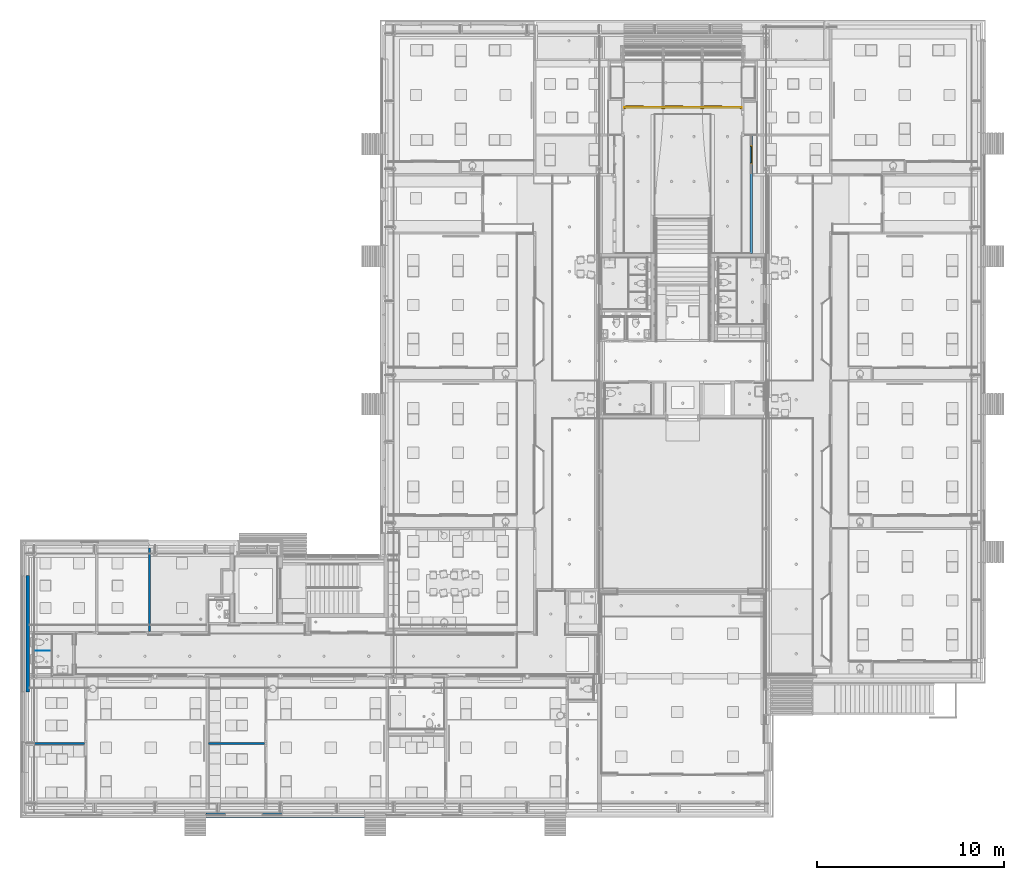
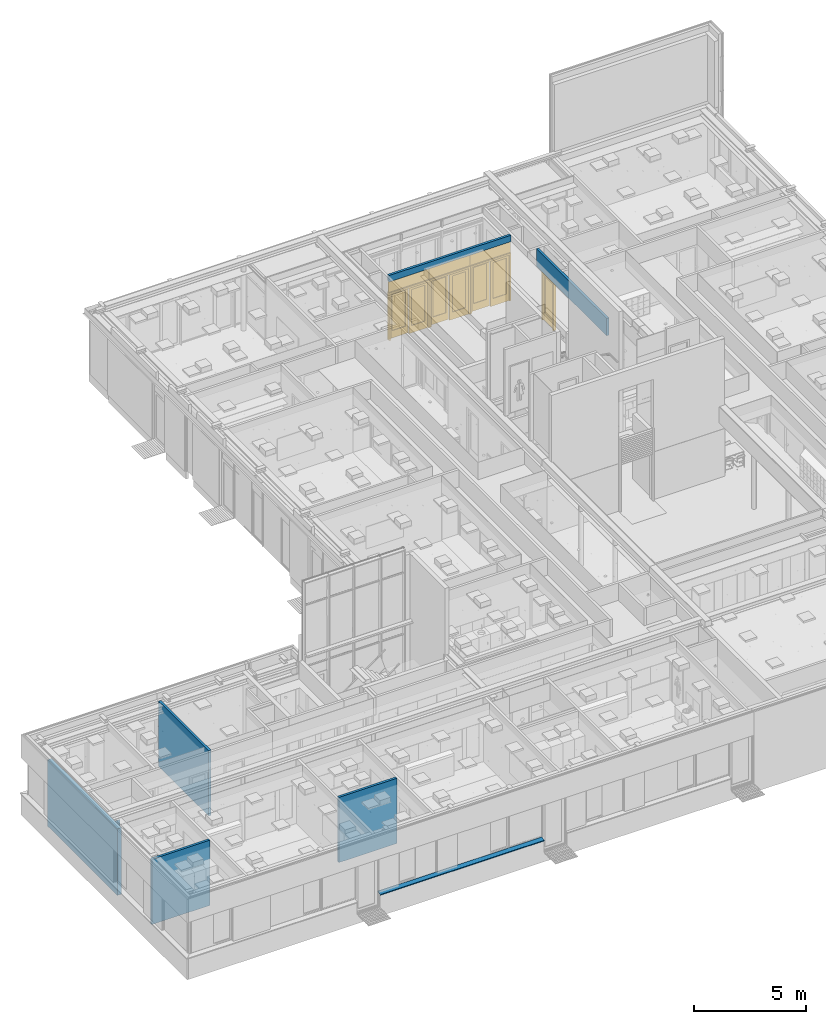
# One storey, part 9 of 347: 8 walls, 4 doors, 3 windows, 10 openings.
"""IFC2X3 building model written with IfcOpenShell, lengths in millimetres."""

from ifc_helpers import new_model, entity, si_unit, converted_unit, derived_unit, money_unit, direction, frame, origin_with_axes, place, context, subcontext, project, spatial, open_shell, faceted_brep, surface_model, source, transform, mapped, material, type_object, type_shapes, element, fill, save


model = new_model("IFC2X3")

# Units and contexts
model_context = context("Model", 3, precision=0.01, world=origin_with_axes(), true_north=direction((0.0, 1.0)))
plan_context = context("Plan", 3, precision=0.01, world=origin_with_axes(), true_north=direction((0.0, 1.0)))
body_context = subcontext(model_context, "Body", "Model", "MODEL_VIEW")
ifc_project = project(units=[si_unit("LENGTHUNIT", "METRE", prefix="MILLI"), si_unit("AREAUNIT", "SQUARE_METRE"), si_unit("VOLUMEUNIT", "CUBIC_METRE"), converted_unit("PLANEANGLEUNIT", "DEGREE", entity("IfcPlaneAngleMeasure", 0.0174532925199), si_unit("PLANEANGLEUNIT", "RADIAN"), dimensions=[0, 0, 0, 0, 0, 0, 0]), money_unit("EUR"), converted_unit("TIMEUNIT", "Year", entity("IfcTimeMeasure", 31556926.0), si_unit("TIMEUNIT", "SECOND"), dimensions=[0, 0, 1, 0, 0, 0, 0]), si_unit("MASSUNIT", "GRAM", prefix="KILO"), si_unit("THERMODYNAMICTEMPERATUREUNIT", "DEGREE_CELSIUS"), si_unit("LUMINOUSINTENSITYUNIT", "LUMEN"), si_unit("ENERGYUNIT", "JOULE", prefix="MEGA"), derived_unit("THERMALCONDUCTANCEUNIT", [(si_unit("POWERUNIT", "WATT"), 1), (si_unit("LENGTHUNIT", "METRE"), -1), (si_unit("THERMODYNAMICTEMPERATUREUNIT", "KELVIN"), -1)]), derived_unit("SPECIFICHEATCAPACITYUNIT", [(si_unit("ENERGYUNIT", "JOULE"), 1), (si_unit("MASSUNIT", "GRAM", prefix="KILO"), -1), (si_unit("THERMODYNAMICTEMPERATUREUNIT", "KELVIN"), -1)]), derived_unit("MASSDENSITYUNIT", [(si_unit("MASSUNIT", "GRAM", prefix="KILO"), 1), (si_unit("VOLUMEUNIT", "CUBIC_METRE"), -1)])], contexts=[model_context, plan_context])

# Site, building, storey
site_placement = place(None, origin_with_axes())
site = spatial("IfcSite", under=ifc_project, at=site_placement, Name="Site", CompositionType="ELEMENT")
building_placement = place(site_placement, origin_with_axes())
building = spatial("IfcBuilding", under=site, at=building_placement, Name="Naam gebouw", CompositionType="ELEMENT")
storey_placement = place(building_placement, origin_with_axes())
storey = spatial("IfcBuildingStorey", under=building, at=storey_placement, Name="begane grond", CompositionType="ELEMENT", Elevation=0.0)

# Wall
ifc_material_1 = material(Name="Beton gewapend prefab wand")
wall_type_1 = type_object("IfcWallType", Name="Betonwand 200 210", PredefinedType="NOTDEFINED")
wall_1_placement = place(storey_placement, frame((5060.0, 17524.9999966, -510.0), z_axis=(0.0, 0.0, 1.0), x_axis=(0.0, -1.0, 0.0)))
element("IfcWall", 1, at=wall_1_placement, inside=storey, type_object=wall_type_1, material=ifc_material_1, Name="21_GF 125 ECO DGS/2.75.3A", context=body_context, shape_type="Brep", body=[
    faceted_brep([(6235.00271032, 0.0, 4070.0), (6235.00271032, 0.0, 440.0), (0.0, 0.0, 440.0), (0.0, 0.0, 4070.0), (6235.00271032, -210.0, 4070.0), (6235.00271032, -210.0, 440.0), (0.0, -210.0, 440.0), (0.0, -210.0, 4070.0)], [[[0, 1, 2, 3]], [[4, 5, 1, 0]], [[5, 6, 2, 1]], [[3, 2, 6, 7]], [[3, 7, 4, 0]], [[7, 6, 5, 4]]]),
])

# Wall, openings, door
ifc_material_2 = material(Name="ALG - LICHTE SCHEIDINGSWAND")
wall_type_2 = type_object("IfcWallType", Name="ALG LSW 125 125", PredefinedType="NOTDEFINED")
wall_2_placement = place(storey_placement, frame((43675.0, 34799.9999802, 0.0), z_axis=(0.0, 0.0, 1.0), x_axis=(0.0, 1.0, 0.0)))
wall_2 = element("IfcWall", 2, at=wall_2_placement, inside=storey, type_object=wall_type_2, material=ifc_material_2, Name="22_GF 125 ECO DGS/2.75.2A", context=body_context, shape_type="Brep", body=[
    faceted_brep([(0.0, -125.0, 3560.0), (5.55752777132e-05, -125.0, 2612.0), (6287.5000198, -125.0, 2612.0), (6287.5000198, -125.0, 3560.0), (0.0, 0.0, 3560.0), (5.55752777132e-05, 0.0, 2612.0), (6287.5000198, 0.0, 2612.0), (6287.5000198, 0.0, 3560.0)], [[[0, 1, 2, 3]], [[4, 5, 1, 0]], [[5, 6, 2, 1]], [[3, 2, 6, 7]], [[0, 3, 7, 4]], [[7, 6, 5, 4]]]),
])
opening_1_placement = place(wall_2_placement, frame((4525.00002877, 0.0, 0.0), z_axis=(0.0, 0.0, 1.0), x_axis=(1.0, 0.0, 0.0)))
element("IfcOpeningElement", 3, at=opening_1_placement, cuts=wall_2, Name="32_10.07", context=body_context, shape_type="Brep", body=[
    faceted_brep([(230.500008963, -250.0, 2600.0), (230.500008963, -250.0, 0.0), (230.500008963, -52.5, 0.0), (230.500008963, -52.5, 2600.0), (-230.500008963, -250.0, 2600.0), (-230.500008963, -250.0, 0.0), (-230.500008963, -52.5, 0.0), (-230.500008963, -52.5, 2600.0)], [[[0, 1, 2, 3]], [[0, 4, 5, 1]], [[1, 5, 6, 2]], [[3, 2, 6, 7]], [[4, 0, 3, 7]], [[5, 4, 7, 6]]]),
    faceted_brep([(230.500008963, 125.0, 0.0), (230.500008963, 125.0, 2600.0), (230.500008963, -52.5, 2600.0), (230.500008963, -52.5, 0.0), (-230.500008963, 125.0, 0.0), (-230.500008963, 125.0, 2600.0), (-230.500008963, -52.5, 2600.0), (-230.500008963, -52.5, 0.0)], [[[0, 1, 2, 3]], [[0, 4, 5, 1]], [[1, 5, 6, 2]], [[3, 2, 6, 7]], [[4, 0, 3, 7]], [[5, 4, 7, 6]]]),
])
opening_2_placement = place(wall_2_placement, frame((6079.75002877, 0.0, 0.0), z_axis=(0.0, 0.0, 1.0), x_axis=(1.0, 0.0, 0.0)))
element("IfcOpeningElement", 4, at=opening_2_placement, cuts=wall_2, Name="32_10.08", context=body_context, shape_type="Brep", body=[
    faceted_brep([(260.249991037, -250.0, 2600.0), (260.249991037, -250.0, 0.0), (260.249991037, -52.5, 0.0), (260.249991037, -52.5, 2600.0), (-260.249991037, -250.0, 2600.0), (-260.249991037, -250.0, 0.0), (-260.249991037, -52.5, 0.0), (-260.249991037, -52.5, 2600.0)], [[[0, 1, 2, 3]], [[0, 4, 5, 1]], [[1, 5, 6, 2]], [[3, 2, 6, 7]], [[4, 0, 3, 7]], [[5, 4, 7, 6]]]),
    faceted_brep([(260.249991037, 125.0, 0.0), (260.249991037, 125.0, 2600.0), (260.249991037, -52.5, 2600.0), (260.249991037, -52.5, 0.0), (-260.249991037, 125.0, 0.0), (-260.249991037, 125.0, 2600.0), (-260.249991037, -52.5, 2600.0), (-260.249991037, -52.5, 0.0)], [[[0, 1, 2, 3]], [[0, 4, 5, 1]], [[1, 5, 6, 2]], [[3, 2, 6, 7]], [[4, 0, 3, 7]], [[5, 4, 7, 6]]]),
])
opening_3_placement = place(wall_2_placement, frame((2077.7500198, 0.0, 0.0), z_axis=(0.0, 0.0, 1.0), x_axis=(1.0, 0.0, 0.0)))
element("IfcOpeningElement", 5, at=opening_3_placement, cuts=wall_2, Name="32_05.05", context=body_context, shape_type="Brep", body=[
    faceted_brep([(-2077.75, -257.0, 0.0), (-2077.75, -257.0, 2600.0), (-2077.75, 125.0, 2600.0), (-2077.75, 125.0, 0.0), (2077.75, -257.0, 0.0), (2077.75, -257.0, 2600.0), (2077.75, 125.0, 2600.0), (2077.75, 125.0, 0.0)], [[[0, 1, 2, 3]], [[0, 4, 5, 1]], [[1, 5, 6, 2]], [[3, 2, 6, 7]], [[4, 0, 3, 7]], [[5, 4, 7, 6]]]),
])
opening_4_placement = place(wall_2_placement, frame((5287.50003773, 0.0, 0.0), z_axis=(0.0, 0.0, 1.0), x_axis=(1.0, 0.0, 0.0)))
opening_4 = element("IfcOpeningElement", 6, at=opening_4_placement, cuts=wall_2, Name="32_01.01", context=body_context, shape_type="Brep", body=[
    faceted_brep([(532.0, 257.0, 0.0), (532.0, 257.0, 2600.0), (532.0, -125.0, 2600.0), (532.0, -125.0, 0.0), (-532.0, 257.0, 0.0), (-532.0, 257.0, 2600.0), (-532.0, -125.0, 2600.0), (-532.0, -125.0, 0.0)], [[[0, 1, 2, 3]], [[0, 4, 5, 1]], [[1, 5, 6, 2]], [[3, 2, 6, 7]], [[4, 0, 3, 7]], [[5, 4, 7, 6]]]),
])
door_style_1 = type_object("IfcDoorStyle", Name="D1 25", ConstructionType="NOTDEFINED", OperationType="SINGLE_SWING_LEFT", ParameterTakesPrecedence=False, Sizeable=False)
shared_shape_1 = source(origin_with_axes(), body_context, "Body", "SurfaceModel", [
    faceted_brep([(442.0, -60.0, 0.0), (442.0, -139.0, 0.0), (442.0, -139.0, 2510.0), (442.0, -60.0, 2510.0), (467.0, -60.0, 0.0), (467.0, 0.0, 0.0), (532.0, 0.0, 0.0), (532.0, -139.0, 0.0), (532.0, -139.0, 2510.0), (467.0, -60.0, 2510.0), (532.0, 0.0, 2510.0), (467.0, 0.0, 2510.0)], [[[0, 1, 2, 3]], [[4, 5, 6, 7, 1, 0]], [[1, 7, 8, 2]], [[9, 3, 2, 8, 10, 11]], [[9, 4, 0, 3]], [[11, 5, 4, 9]], [[11, 10, 6, 5]], [[6, 10, 8, 7]]]),
    faceted_brep([(-467.0, -60.0, 2510.0), (-467.0, 0.0, 2510.0), (-532.0, 0.0, 2510.0), (-532.0, -139.0, 2510.0), (-442.0, -139.0, 2510.0), (-442.0, -60.0, 2510.0), (-467.0, -60.0, 0.0), (-467.0, 0.0, 0.0), (-532.0, 0.0, 0.0), (-532.0, -139.0, 0.0), (-442.0, -139.0, 0.0), (-442.0, -60.0, 0.0)], [[[0, 1, 2, 3, 4, 5]], [[0, 6, 7, 1]], [[7, 8, 2, 1]], [[2, 8, 9, 3]], [[3, 9, 10, 4]], [[5, 4, 10, 11]], [[5, 11, 6, 0]], [[6, 11, 10, 9, 8, 7]]]),
    faceted_brep([(467.0, 0.0, 2535.0), (-467.0, 0.0, 2535.0), (-467.0, 0.0, 2510.0), (-532.0, 0.0, 2510.0), (-532.0, 0.0, 2600.0), (532.0, 0.0, 2600.0), (532.0, 0.0, 2510.0), (467.0, 0.0, 2510.0), (467.0, -60.0, 2535.0), (-467.0, -60.0, 2535.0), (-467.0, -60.0, 2510.0), (-442.0, -60.0, 2510.0), (-442.0, -139.0, 2510.0), (-532.0, -139.0, 2510.0), (-532.0, -139.0, 2600.0), (532.0, -139.0, 2600.0), (532.0, -139.0, 2510.0), (467.0, -60.0, 2510.0), (442.0, -139.0, 2510.0), (442.0, -60.0, 2510.0)], [[[0, 1, 2, 3, 4, 5, 6, 7]], [[0, 8, 9, 1]], [[1, 9, 10, 2]], [[10, 11, 12, 13, 3, 2]], [[4, 3, 13, 14]], [[5, 4, 14, 15]], [[6, 5, 15, 16]], [[17, 7, 6, 16, 18, 19]], [[7, 17, 8, 0]], [[10, 9, 8, 17, 19, 11]], [[19, 18, 12, 11]], [[12, 18, 16, 15, 14, 13]]]),
    faceted_brep([(-467.0, -6.0, 400.0), (-327.0, -6.0, 400.0), (-327.0, -60.0, 400.0), (-467.0, -60.0, 400.0), (-467.0, -6.0, 2395.0), (-327.0, -6.0, 2395.0), (-327.0, -60.0, 2395.0), (-467.0, -60.0, 2395.0)], [[[0, 1, 2, 3]], [[0, 4, 5, 1]], [[1, 5, 6, 2]], [[3, 2, 6, 7]], [[4, 0, 3, 7]], [[5, 4, 7, 6]]]),
    faceted_brep([(467.0, -6.0, 400.0), (467.0, -6.0, 2395.0), (467.0, -60.0, 2395.0), (467.0, -60.0, 400.0), (327.0, -6.0, 400.0), (327.0, -6.0, 2395.0), (327.0, -60.0, 2395.0), (327.0, -60.0, 400.0)], [[[0, 1, 2, 3]], [[0, 4, 5, 1]], [[1, 5, 6, 2]], [[3, 2, 6, 7]], [[4, 0, 3, 7]], [[5, 4, 7, 6]]]),
    faceted_brep([(-467.0, -6.0, 0.0), (467.0, -6.0, 0.0), (467.0, -60.0, 0.0), (-467.0, -60.0, 0.0), (-467.0, -6.0, 400.0), (-327.0, -6.0, 400.0), (327.0, -6.0, 400.0), (467.0, -6.0, 400.0), (467.0, -60.0, 400.0), (327.0, -60.0, 400.0), (-327.0, -60.0, 400.0), (-467.0, -60.0, 400.0)], [[[0, 1, 2, 3]], [[0, 4, 5, 6, 7, 1]], [[1, 7, 8, 2]], [[3, 2, 8, 9, 10, 11]], [[4, 0, 3, 11]], [[5, 4, 11, 10]], [[6, 5, 10, 9]], [[7, 6, 9, 8]]]),
    faceted_brep([(-467.0, -6.0, 2535.0), (-467.0, -6.0, 2395.0), (-467.0, -60.0, 2395.0), (-467.0, -60.0, 2535.0), (467.0, -6.0, 2535.0), (467.0, -6.0, 2395.0), (327.0, -6.0, 2395.0), (-327.0, -6.0, 2395.0), (-327.0, -60.0, 2395.0), (327.0, -60.0, 2395.0), (467.0, -60.0, 2395.0), (467.0, -60.0, 2535.0)], [[[0, 1, 2, 3]], [[0, 4, 5, 6, 7, 1]], [[1, 7, 8, 2]], [[3, 2, 8, 9, 10, 11]], [[4, 0, 3, 11]], [[5, 4, 11, 10]], [[6, 5, 10, 9]], [[7, 6, 9, 8]]]),
    surface_model("IfcShellBasedSurfaceModel", [(-327.0, -27.0, 400.0), (-327.0, -27.0, 2395.0), (327.0, -27.0, 2395.0), (327.0, -27.0, 400.0)], [open_shell([[[0, 1, 2, 3]]])]),
    surface_model("IfcShellBasedSurfaceModel", [(-327.0, -39.0, 400.0), (327.0, -39.0, 400.0), (327.0, -39.0, 2395.0), (-327.0, -39.0, 2395.0)], [open_shell([[[0, 1, 2, 3]]])]),
])
type_shapes(door_style_1, [shared_shape_1])
door_1_placement = place(opening_4_placement, frame((532.0, 0.0, 0.0), z_axis=(0.0, 0.0, 1.0), x_axis=(-1.0, 0.0, 0.0)))
door_1 = element("IfcDoor", 7, at=door_1_placement, inside=storey, type_object=door_style_1, Name="32_01.01", ObjectType="DOOR", OverallHeight=2600.0, OverallWidth=1064.0, context=body_context, shape_type="MappedRepresentation", body=[
    mapped(shared_shape_1, transform((532.0, 132.0, 0.0))),
])
fill(opening_4, door_1)

# Walls
wall_3_placement = place(storey_placement, frame((5000.0, 8527.5, 0.0), z_axis=(0.0, 0.0, 1.0), x_axis=(1.0, 0.0, 0.0)))
element("IfcWall", 8, at=wall_3_placement, inside=storey, type_object=wall_type_2, material=ifc_material_2, Name="22_GF 125 ECO DGS/2.75.2A", context=body_context, shape_type="Brep", body=[
    faceted_brep([(-2.2106405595e-06, 62.5, 0.0), (-2.2106405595e-06, 62.5, 3560.0), (3000.0, 62.5, 3560.0), (3000.0, 62.5, 0.0), (-2.2106405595e-06, -62.5, 0.0), (-2.2106405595e-06, -62.5, 3560.0), (3000.0, -62.5, 3560.0), (3000.0, -62.5, 0.0)], [[[0, 1, 2, 3]], [[4, 5, 1, 0]], [[2, 1, 5, 6]], [[7, 3, 2, 6]], [[7, 4, 0, 3]], [[6, 5, 4, 7]]]),
])
wall_4_placement = place(storey_placement, frame((14525.0, 8527.5, 0.0), z_axis=(0.0, 0.0, 1.0), x_axis=(1.0, 0.0, 0.0)))
element("IfcWall", 9, at=wall_4_placement, inside=storey, type_object=wall_type_2, material=ifc_material_2, Name="22_GF 125 ECO DGS/2.75.2A", context=body_context, shape_type="Brep", body=[
    faceted_brep([(3125.0, -62.5, 3560.0), (3125.0, 62.5, 3560.0), (125.0, 62.5, 3560.0), (125.0, -62.5, 3560.0), (3125.0, -62.5, 0.0), (3125.0, 62.5, 0.0), (125.0, 62.5, 0.0), (125.0, -62.5, 0.0)], [[[0, 1, 2, 3]], [[1, 0, 4, 5]], [[1, 5, 6, 2]], [[7, 3, 2, 6]], [[4, 0, 3, 7]], [[5, 4, 7, 6]]]),
])
wall_5_placement = place(storey_placement, frame((11425.0, 19000.0, 0.0), z_axis=(0.0, 0.0, 1.0), x_axis=(0.0, -1.0, 0.0)))
element("IfcWall", 10, at=wall_5_placement, inside=storey, type_object=wall_type_2, material=ifc_material_2, Name="22_GF 125 ECO DGS/2.75.3A", context=body_context, shape_type="Brep", body=[
    faceted_brep([(4109.99990516, 125.0, 2612.0), (4109.99990516, 125.0, 2600.0), (4475.0, 125.0, 2600.0), (4475.0, 125.0, 0.0), (-3.32258665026e-06, 125.0, 0.0), (-3.32258665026e-06, 125.0, 3559.99997586), (4475.0, 125.0, 3560.0), (4475.0, 125.0, 2612.0), (4109.99990516, -2.09852757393e-06, 2600.0), (4109.99990516, -2.09852757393e-06, 2612.0), (4475.0, 0.0, 2600.0), (4475.0, 0.0, 0.0), (-2.21049489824e-06, -2.09852757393e-06, 0.0), (-2.21049489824e-06, -2.09852757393e-06, 3559.99997586), (4475.0, 0.0, 3560.0), (4475.0, 0.0, 2612.0)], [[[0, 1, 2, 3, 4, 5, 6, 7]], [[8, 1, 0, 9]], [[10, 2, 1, 8]], [[3, 2, 10, 11]], [[3, 11, 12, 4]], [[5, 4, 12, 13]], [[14, 6, 5, 13]], [[14, 15, 7, 6]], [[9, 0, 7, 15]], [[8, 9, 15, 14, 13, 12, 11, 10]]]),
])

# Wall, openings, windows, doors
wall_type_3 = type_object("IfcWallType", Name="ALG - LICHTE SCHEIDINGSWAND 125", PredefinedType="NOTDEFINED")
wall_6_placement = place(storey_placement, frame((36925.0, 42562.5, 0.0), z_axis=(0.0, 0.0, 1.0), x_axis=(1.0, 0.0, 0.0)))
wall_6 = element("IfcWall", 11, at=wall_6_placement, inside=storey, type_object=wall_type_3, material=ifc_material_2, Name="22_53 wandtegels keramisch", context=body_context, shape_type="Brep", body=[
    faceted_brep([(6300.0, 0.0, 3560.0), (6300.00000438, 0.0, 3212.0), (6300.00000438, 125.0, 3212.0), (6300.0, 125.0, 3560.0), (0.0, 0.0, 3560.0), (0.0, 0.0, 3212.0), (0.0, 125.0, 3212.0), (0.0, 125.0, 3560.0)], [[[0, 1, 2, 3]], [[4, 5, 1, 0]], [[5, 6, 2, 1]], [[3, 2, 6, 7]], [[4, 0, 3, 7]], [[7, 6, 5, 4]]]),
])
opening_5_placement = place(wall_6_placement, frame((1050.0, 0.0, 2600.0), z_axis=(0.0, 0.0, 1.0), x_axis=(1.0, 0.0, 0.0)))
opening_5 = element("IfcOpeningElement", 12, at=opening_5_placement, cuts=wall_6, Name="31_12.01", context=body_context, shape_type="Brep", body=[
    faceted_brep([(-1050.0, 250.0, 600.0), (-1050.0, 250.0, 0.0), (-1050.0, 52.5, 0.0), (-1050.0, 52.5, 600.0), (1050.0, 250.0, 600.0), (1050.0, 250.0, 0.0), (1050.0, 52.5, 0.0), (1050.0, 52.5, 600.0)], [[[0, 1, 2, 3]], [[0, 4, 5, 1]], [[1, 5, 6, 2]], [[3, 2, 6, 7]], [[4, 0, 3, 7]], [[5, 4, 7, 6]]]),
    faceted_brep([(-1050.0, -125.0, 0.0), (-1050.0, -125.0, 600.0), (-1050.0, 52.5, 600.0), (-1050.0, 52.5, 0.0), (1050.0, -125.0, 0.0), (1050.0, -125.0, 600.0), (1050.0, 52.5, 600.0), (1050.0, 52.5, 0.0)], [[[0, 1, 2, 3]], [[0, 4, 5, 1]], [[1, 5, 6, 2]], [[3, 2, 6, 7]], [[4, 0, 3, 7]], [[5, 4, 7, 6]]]),
])
opening_6_placement = place(wall_6_placement, frame((3150.0, 0.0, 2600.0), z_axis=(0.0, 0.0, 1.0), x_axis=(1.0, 0.0, 0.0)))
opening_6 = element("IfcOpeningElement", 13, at=opening_6_placement, cuts=wall_6, Name="31_12.01", context=body_context, shape_type="Brep", body=[
    faceted_brep([(-1050.0, 250.0, 600.0), (-1050.0, 250.0, 0.0), (-1050.0, 52.5, 0.0), (-1050.0, 52.5, 600.0), (1050.0, 250.0, 600.0), (1050.0, 250.0, 0.0), (1050.0, 52.5, 0.0), (1050.0, 52.5, 600.0)], [[[0, 1, 2, 3]], [[0, 4, 5, 1]], [[1, 5, 6, 2]], [[3, 2, 6, 7]], [[4, 0, 3, 7]], [[5, 4, 7, 6]]]),
    faceted_brep([(-1050.0, -125.0, 0.0), (-1050.0, -125.0, 600.0), (-1050.0, 52.5, 600.0), (-1050.0, 52.5, 0.0), (1050.0, -125.0, 0.0), (1050.0, -125.0, 600.0), (1050.0, 52.5, 600.0), (1050.0, 52.5, 0.0)], [[[0, 1, 2, 3]], [[0, 4, 5, 1]], [[1, 5, 6, 2]], [[3, 2, 6, 7]], [[4, 0, 3, 7]], [[5, 4, 7, 6]]]),
])
opening_7_placement = place(wall_6_placement, frame((5250.0, 0.0, 2600.0), z_axis=(0.0, 0.0, 1.0), x_axis=(1.0, 0.0, 0.0)))
opening_7 = element("IfcOpeningElement", 14, at=opening_7_placement, cuts=wall_6, Name="31_12.01", context=body_context, shape_type="Brep", body=[
    faceted_brep([(-1050.0, 250.0, 600.0), (-1050.0, 250.0, 0.0), (-1050.0, 52.5, 0.0), (-1050.0, 52.5, 600.0), (1050.0, 250.0, 600.0), (1050.0, 250.0, 0.0), (1050.0, 52.5, 0.0), (1050.0, 52.5, 600.0)], [[[0, 1, 2, 3]], [[0, 4, 5, 1]], [[1, 5, 6, 2]], [[3, 2, 6, 7]], [[4, 0, 3, 7]], [[5, 4, 7, 6]]]),
    faceted_brep([(-1050.0, -125.0, 0.0), (-1050.0, -125.0, 600.0), (-1050.0, 52.5, 600.0), (-1050.0, 52.5, 0.0), (1050.0, -125.0, 0.0), (1050.0, -125.0, 600.0), (1050.0, 52.5, 600.0), (1050.0, 52.5, 0.0)], [[[0, 1, 2, 3]], [[0, 4, 5, 1]], [[1, 5, 6, 2]], [[3, 2, 6, 7]], [[4, 0, 3, 7]], [[5, 4, 7, 6]]]),
])
opening_8_placement = place(wall_6_placement, frame((3150.0, 0.0, 0.0), z_axis=(0.0, 0.0, 1.0), x_axis=(1.0, 0.0, 0.0)))
opening_8 = element("IfcOpeningElement", 15, at=opening_8_placement, cuts=wall_6, Name="32_05.01", context=body_context, shape_type="Brep", body=[
    faceted_brep([(1050.0, -125.0, 2600.0), (1050.0, -125.0, 0.0), (1050.0, 257.0, 0.0), (1050.0, 257.0, 2600.0), (-1050.0, -125.0, 2600.0), (-1050.0, -125.0, 0.0), (-1050.0, 257.0, 0.0), (-1050.0, 257.0, 2600.0)], [[[0, 1, 2, 3]], [[0, 4, 5, 1]], [[1, 5, 6, 2]], [[3, 2, 6, 7]], [[4, 0, 3, 7]], [[5, 4, 7, 6]]]),
])
opening_9_placement = place(wall_6_placement, frame((1050.0, 0.0, 0.0), z_axis=(0.0, 0.0, 1.0), x_axis=(1.0, 0.0, 0.0)))
opening_9 = element("IfcOpeningElement", 16, at=opening_9_placement, cuts=wall_6, Name="32_05.01", context=body_context, shape_type="Brep", body=[
    faceted_brep([(1050.0, -125.0, 2600.0), (1050.0, -125.0, 0.0), (1050.0, 257.0, 0.0), (1050.0, 257.0, 2600.0), (-1050.0, -125.0, 2600.0), (-1050.0, -125.0, 0.0), (-1050.0, 257.0, 0.0), (-1050.0, 257.0, 2600.0)], [[[0, 1, 2, 3]], [[0, 4, 5, 1]], [[1, 5, 6, 2]], [[3, 2, 6, 7]], [[4, 0, 3, 7]], [[5, 4, 7, 6]]]),
])
opening_10_placement = place(wall_6_placement, frame((5250.0, 0.0, 0.0), z_axis=(0.0, 0.0, 1.0), x_axis=(1.0, 0.0, 0.0)))
opening_10 = element("IfcOpeningElement", 17, at=opening_10_placement, cuts=wall_6, Name="32_05.01", context=body_context, shape_type="Brep", body=[
    faceted_brep([(1050.0, -125.0, 2600.0), (1050.0, -125.0, 0.0), (1050.0, 257.0, 0.0), (1050.0, 257.0, 2600.0), (-1050.0, -125.0, 2600.0), (-1050.0, -125.0, 0.0), (-1050.0, 257.0, 0.0), (-1050.0, 257.0, 2600.0)], [[[0, 1, 2, 3]], [[0, 4, 5, 1]], [[1, 5, 6, 2]], [[3, 2, 6, 7]], [[4, 0, 3, 7]], [[5, 4, 7, 6]]]),
])
window_style = type_object("IfcWindowStyle", Name="R1 25", ConstructionType="NOTDEFINED", OperationType="SINGLE_PANEL", ParameterTakesPrecedence=False, Sizeable=False)
shared_shape_2 = source(origin_with_axes(), body_context, "Body", "SurfaceModel", [
    faceted_brep([(-1030.0, -20.0, 580.0), (-1030.0, 0.0, 580.0), (-1050.0, 0.0, 580.0), (-1050.0, -20.0, 580.0), (-1030.0, -20.0, 20.0), (-1030.0, 0.0, 20.0), (-1050.0, 0.0, 20.0), (-1050.0, -20.0, 20.0)], [[[0, 1, 2, 3]], [[4, 5, 1, 0]], [[1, 5, 6, 2]], [[3, 2, 6, 7]], [[0, 3, 7, 4]], [[7, 6, 5, 4]]]),
    faceted_brep([(1030.0, -20.0, 20.0), (1030.0, 0.0, 20.0), (1050.0, 0.0, 20.0), (1050.0, -20.0, 20.0), (1030.0, -20.0, 580.0), (1030.0, 0.0, 580.0), (1050.0, 0.0, 580.0), (1050.0, -20.0, 580.0)], [[[0, 1, 2, 3]], [[4, 5, 1, 0]], [[1, 5, 6, 2]], [[3, 2, 6, 7]], [[0, 3, 7, 4]], [[7, 6, 5, 4]]]),
    faceted_brep([(-1030.0, -20.0, 20.0), (-1030.0, 0.0, 20.0), (-1050.0, 0.0, 20.0), (-1050.0, -20.0, 20.0), (1030.0, -20.0, 20.0), (1030.0, 0.0, 20.0), (1050.0, 0.0, 20.0), (1050.0, 0.0, 0.0), (-1050.0, 0.0, 0.0), (-1050.0, -20.0, 0.0), (1050.0, -20.0, 0.0), (1050.0, -20.0, 20.0)], [[[0, 1, 2, 3]], [[4, 5, 1, 0]], [[1, 5, 6, 7, 8, 2]], [[3, 2, 8, 9]], [[0, 3, 9, 10, 11, 4]], [[11, 6, 5, 4]], [[10, 7, 6, 11]], [[9, 8, 7, 10]]]),
    faceted_brep([(1030.0, -20.0, 580.0), (1030.0, 0.0, 580.0), (1050.0, 0.0, 580.0), (1050.0, -20.0, 580.0), (-1030.0, -20.0, 580.0), (-1030.0, 0.0, 580.0), (-1050.0, 0.0, 580.0), (-1050.0, 0.0, 600.0), (1050.0, 0.0, 600.0), (1050.0, -20.0, 600.0), (-1050.0, -20.0, 600.0), (-1050.0, -20.0, 580.0)], [[[0, 1, 2, 3]], [[4, 5, 1, 0]], [[1, 5, 6, 7, 8, 2]], [[3, 2, 8, 9]], [[0, 3, 9, 10, 11, 4]], [[11, 6, 5, 4]], [[10, 7, 6, 11]], [[9, 8, 7, 10]]]),
    surface_model("IfcShellBasedSurfaceModel", [(-1030.0, -20.0, 20.0), (1030.0, -20.0, 20.0), (1030.0, -20.0, 580.0), (-1030.0, -20.0, 580.0)], [open_shell([[[0, 1, 2, 3]]])]),
    surface_model("IfcShellBasedSurfaceModel", [(-1030.0, 0.0, 20.0), (-1030.0, 0.0, 580.0), (1030.0, 0.0, 580.0), (1030.0, 0.0, 20.0)], [open_shell([[[0, 1, 2, 3]]])]),
])
type_shapes(window_style, [shared_shape_2])
window_1_placement = place(opening_5_placement, frame((1050.0, 0.0, 0.0), z_axis=(0.0, 0.0, 1.0), x_axis=(-1.0, 0.0, 0.0)))
window_1 = element("IfcWindow", 18, at=window_1_placement, inside=storey, type_object=window_style, Name="31_12.01", ObjectType="WINDOW", OverallHeight=600.0, OverallWidth=2100.0, context=body_context, shape_type="MappedRepresentation", body=[
    mapped(shared_shape_2, transform((1050.0, -52.5, 0.0))),
])
fill(opening_5, window_1)
window_2_placement = place(opening_6_placement, frame((1050.0, 0.0, 0.0), z_axis=(0.0, 0.0, 1.0), x_axis=(-1.0, 0.0, 0.0)))
window_2 = element("IfcWindow", 19, at=window_2_placement, inside=storey, type_object=window_style, Name="31_12.01", ObjectType="WINDOW", OverallHeight=600.0, OverallWidth=2100.0, context=body_context, shape_type="MappedRepresentation", body=[
    mapped(shared_shape_2, transform((1050.0, -52.5, 0.0))),
])
fill(opening_6, window_2)
window_3_placement = place(opening_7_placement, frame((1050.0, 0.0, 0.0), z_axis=(0.0, 0.0, 1.0), x_axis=(-1.0, 0.0, 0.0)))
window_3 = element("IfcWindow", 20, at=window_3_placement, inside=storey, type_object=window_style, Name="31_12.01", ObjectType="WINDOW", OverallHeight=600.0, OverallWidth=2100.0, context=body_context, shape_type="MappedRepresentation", body=[
    mapped(shared_shape_2, transform((1050.0, -52.5, 0.0))),
])
fill(opening_7, window_3)
door_style_2 = type_object("IfcDoorStyle", Name="D2 25", ConstructionType="NOTDEFINED", OperationType="DOUBLE_DOOR_SINGLE_SWING_OPPOSITE_RIGHT", ParameterTakesPrecedence=False, Sizeable=False)
shared_shape_3 = source(origin_with_axes(), body_context, "Body", "SurfaceModel", [
    faceted_brep([(-1050.0, 0.0, 0.0), (-960.0, 0.0, 0.0), (-960.0, -139.0, 0.0), (-1050.0, -139.0, 0.0), (-1050.0, 0.0, 2510.0), (-960.0, 0.0, 2510.0), (-960.0, -139.0, 2510.0), (-1050.0, -139.0, 2510.0)], [[[0, 1, 2, 3]], [[0, 4, 5, 1]], [[1, 5, 6, 2]], [[3, 2, 6, 7]], [[4, 0, 3, 7]], [[5, 4, 7, 6]]]),
    faceted_brep([(1050.0, 0.0, 0.0), (1050.0, 0.0, 2510.0), (1050.0, -139.0, 2510.0), (1050.0, -139.0, 0.0), (960.0, 0.0, 0.0), (960.0, 0.0, 2510.0), (960.0, -139.0, 2510.0), (960.0, -139.0, 0.0)], [[[0, 1, 2, 3]], [[0, 4, 5, 1]], [[1, 5, 6, 2]], [[3, 2, 6, 7]], [[4, 0, 3, 7]], [[5, 4, 7, 6]]]),
    faceted_brep([(-1050.0, 0.0, 2600.0), (-1050.0, 0.0, 2510.0), (-1050.0, -139.0, 2510.0), (-1050.0, -139.0, 2600.0), (1050.0, 0.0, 2600.0), (1050.0, 0.0, 2510.0), (960.0, 0.0, 2510.0), (-960.0, 0.0, 2510.0), (-960.0, -139.0, 2510.0), (960.0, -139.0, 2510.0), (1050.0, -139.0, 2510.0), (1050.0, -139.0, 2600.0)], [[[0, 1, 2, 3]], [[0, 4, 5, 6, 7, 1]], [[1, 7, 8, 2]], [[3, 2, 8, 9, 10, 11]], [[4, 0, 3, 11]], [[5, 4, 11, 10]], [[6, 5, 10, 9]], [[7, 6, 9, 8]]]),
    faceted_brep([(960.0, -46.0, 400.0), (960.0, -100.0, 400.0), (820.0, -100.0, 400.0), (820.0, -46.0, 400.0), (960.0, -46.0, 2370.0), (960.0, -100.0, 2370.0), (820.0, -100.0, 2370.0), (820.0, -46.0, 2370.0)], [[[0, 1, 2, 3]], [[4, 5, 1, 0]], [[1, 5, 6, 2]], [[3, 2, 6, 7]], [[0, 3, 7, 4]], [[7, 6, 5, 4]]]),
    faceted_brep([(0.0, -46.0, 400.0), (0.0, -100.0, 400.0), (0.0, -100.0, 2370.0), (0.0, -46.0, 2370.0), (140.0, -46.0, 400.0), (140.0, -100.0, 400.0), (140.0, -100.0, 2370.0), (140.0, -46.0, 2370.0)], [[[0, 1, 2, 3]], [[4, 5, 1, 0]], [[1, 5, 6, 2]], [[3, 2, 6, 7]], [[0, 3, 7, 4]], [[7, 6, 5, 4]]]),
    faceted_brep([(960.0, -46.0, 0.0), (960.0, -100.0, 0.0), (0.0, -100.0, 0.0), (0.0, -46.0, 0.0), (960.0, -46.0, 400.0), (960.0, -100.0, 400.0), (820.0, -100.0, 400.0), (140.0, -100.0, 400.0), (0.0, -100.0, 400.0), (0.0, -46.0, 400.0), (140.0, -46.0, 400.0), (820.0, -46.0, 400.0)], [[[0, 1, 2, 3]], [[4, 5, 1, 0]], [[1, 5, 6, 7, 8, 2]], [[3, 2, 8, 9]], [[0, 3, 9, 10, 11, 4]], [[11, 6, 5, 4]], [[10, 7, 6, 11]], [[9, 8, 7, 10]]]),
    faceted_brep([(960.0, -46.0, 2510.0), (960.0, -100.0, 2510.0), (960.0, -100.0, 2370.0), (960.0, -46.0, 2370.0), (0.0, -46.0, 2510.0), (0.0, -100.0, 2510.0), (0.0, -100.0, 2370.0), (140.0, -100.0, 2370.0), (820.0, -100.0, 2370.0), (820.0, -46.0, 2370.0), (140.0, -46.0, 2370.0), (0.0, -46.0, 2370.0)], [[[0, 1, 2, 3]], [[4, 5, 1, 0]], [[1, 5, 6, 7, 8, 2]], [[3, 2, 8, 9]], [[0, 3, 9, 10, 11, 4]], [[11, 6, 5, 4]], [[10, 7, 6, 11]], [[9, 8, 7, 10]]]),
    surface_model("IfcShellBasedSurfaceModel", [(820.0, -67.0, 400.0), (140.0, -67.0, 400.0), (140.0, -67.0, 2370.0), (820.0, -67.0, 2370.0)], [open_shell([[[0, 1, 2, 3]]])]),
    surface_model("IfcShellBasedSurfaceModel", [(820.0, -79.0, 400.0), (820.0, -79.0, 2370.0), (140.0, -79.0, 2370.0), (140.0, -79.0, 400.0)], [open_shell([[[0, 1, 2, 3]]])]),
    faceted_brep([(-960.0, -8.0, 400.0), (-960.0, 46.0, 400.0), (-820.0, 46.0, 400.0), (-820.0, -8.0, 400.0), (-960.0, -8.0, 2370.0), (-960.0, 46.0, 2370.0), (-820.0, 46.0, 2370.0), (-820.0, -8.0, 2370.0)], [[[0, 1, 2, 3]], [[4, 5, 1, 0]], [[1, 5, 6, 2]], [[3, 2, 6, 7]], [[0, 3, 7, 4]], [[7, 6, 5, 4]]]),
    faceted_brep([(0.0, -8.0, 400.0), (0.0, 46.0, 400.0), (0.0, 46.0, 2370.0), (0.0, -8.0, 2370.0), (-140.0, -8.0, 400.0), (-140.0, 46.0, 400.0), (-140.0, 46.0, 2370.0), (-140.0, -8.0, 2370.0)], [[[0, 1, 2, 3]], [[4, 5, 1, 0]], [[1, 5, 6, 2]], [[3, 2, 6, 7]], [[0, 3, 7, 4]], [[7, 6, 5, 4]]]),
    faceted_brep([(-960.0, -8.0, 0.0), (-960.0, 46.0, 0.0), (0.0, 46.0, 0.0), (0.0, -8.0, 0.0), (-960.0, -8.0, 400.0), (-960.0, 46.0, 400.0), (-820.0, 46.0, 400.0), (-140.0, 46.0, 400.0), (0.0, 46.0, 400.0), (0.0, -8.0, 400.0), (-140.0, -8.0, 400.0), (-820.0, -8.0, 400.0)], [[[0, 1, 2, 3]], [[4, 5, 1, 0]], [[1, 5, 6, 7, 8, 2]], [[3, 2, 8, 9]], [[0, 3, 9, 10, 11, 4]], [[11, 6, 5, 4]], [[10, 7, 6, 11]], [[9, 8, 7, 10]]]),
    faceted_brep([(-960.0, -8.0, 2510.0), (-960.0, 46.0, 2510.0), (-960.0, 46.0, 2370.0), (-960.0, -8.0, 2370.0), (0.0, -8.0, 2510.0), (0.0, 46.0, 2510.0), (0.0, 46.0, 2370.0), (-140.0, 46.0, 2370.0), (-820.0, 46.0, 2370.0), (-820.0, -8.0, 2370.0), (-140.0, -8.0, 2370.0), (0.0, -8.0, 2370.0)], [[[0, 1, 2, 3]], [[4, 5, 1, 0]], [[1, 5, 6, 7, 8, 2]], [[3, 2, 8, 9]], [[0, 3, 9, 10, 11, 4]], [[11, 6, 5, 4]], [[10, 7, 6, 11]], [[9, 8, 7, 10]]]),
    surface_model("IfcShellBasedSurfaceModel", [(-820.0, 13.0, 400.0), (-140.0, 13.0, 400.0), (-140.0, 13.0, 2370.0), (-820.0, 13.0, 2370.0)], [open_shell([[[0, 1, 2, 3]]])]),
    surface_model("IfcShellBasedSurfaceModel", [(-820.0, 25.0, 400.0), (-820.0, 25.0, 2370.0), (-140.0, 25.0, 2370.0), (-140.0, 25.0, 400.0)], [open_shell([[[0, 1, 2, 3]]])]),
])
type_shapes(door_style_2, [shared_shape_3])
door_2_placement = place(opening_8_placement, frame((-1050.0, 0.0, 0.0), z_axis=(0.0, 0.0, 1.0), x_axis=(1.0, 0.0, 0.0)))
door_2 = element("IfcDoor", 21, at=door_2_placement, inside=storey, type_object=door_style_2, Name="32_05.01", ObjectType="DOOR", OverallHeight=2600.0, OverallWidth=2100.0, context=body_context, shape_type="MappedRepresentation", body=[
    mapped(shared_shape_3, transform((1050.0, 132.0, 0.0))),
])
fill(opening_8, door_2)
door_3_placement = place(opening_9_placement, frame((-1050.0, 0.0, 0.0), z_axis=(0.0, 0.0, 1.0), x_axis=(1.0, 0.0, 0.0)))
door_3 = element("IfcDoor", 22, at=door_3_placement, inside=storey, type_object=door_style_2, Name="32_05.01", ObjectType="DOOR", OverallHeight=2600.0, OverallWidth=2100.0, context=body_context, shape_type="MappedRepresentation", body=[
    mapped(shared_shape_3, transform((1050.0, 132.0, 0.0))),
])
fill(opening_9, door_3)
door_4_placement = place(opening_10_placement, frame((-1050.0, 0.0, 0.0), z_axis=(0.0, 0.0, 1.0), x_axis=(1.0, 0.0, 0.0)))
door_4 = element("IfcDoor", 23, at=door_4_placement, inside=storey, type_object=door_style_2, Name="32_05.01", ObjectType="DOOR", OverallHeight=2600.0, OverallWidth=2100.0, context=body_context, shape_type="MappedRepresentation", body=[
    mapped(shared_shape_3, transform((1050.0, 132.0, 0.0))),
])
fill(opening_10, door_4)

# Walls
ifc_material_3 = material(Name="Kunststof Kupan")
wall_type_4 = type_object("IfcWallType", Name="74 Kupan tussenwand 13 x 2100", PredefinedType="NOTDEFINED")
wall_7_placement = place(storey_placement, frame((5275.00003006, 13499.9999996, 0.0), z_axis=(0.0, 0.0, 1.0), x_axis=(1.0, 4.41445413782e-10, 0.0)))
element("IfcWall", 24, at=wall_7_placement, inside=storey, type_object=wall_type_4, material=ifc_material_3, Name="22_74 sanitaire wand", context=body_context, shape_type="Brep", body=[
    faceted_brep([(-2.86881629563e-09, -6.5, 2250.0), (978.500000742, -6.50000043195, 2249.99999255), (978.500000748, 6.49999956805, 2249.99999255), (2.86970447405e-09, 6.5, 2250.0), (-2.86881629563e-09, -6.5, 150.0), (978.500000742, -6.50000043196, 150.0), (978.500000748, 6.49999956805, 150.0), (2.86970447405e-09, 6.5, 150.0)], [[[0, 1, 2, 3]], [[4, 5, 1, 0]], [[5, 6, 2, 1]], [[3, 2, 6, 7]], [[3, 7, 4, 0]], [[7, 6, 5, 4]]]),
])
ifc_material_4 = material(Name="Metaal - Aluminium beige")
wall_type_5 = type_object("IfcWallType", Name="32 waterslag (negge 210mm) 252 x 90", PredefinedType="NOTDEFINED")
wall_8_placement = place(storey_placement, frame((22998.0, 4778.0000279, 720.0), z_axis=(0.0, 0.0, 1.0), x_axis=(-1.0, 0.0, 0.0)))
element("IfcWall", 25, at=wall_8_placement, inside=storey, type_object=wall_type_5, material=ifc_material_4, Name="21_31 waterslag", context=body_context, shape_type="Brep", body=[
    faceted_brep([(0.0, -13.9991300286, 10.0000166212), (8473.0, -13.9991300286, 10.0000166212), (8473.0, -12.0001235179, 10.0000166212), (0.0, -12.0001235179, 10.0000166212), (0.0, -13.9991300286, -16.8402038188), (8473.0, -13.9991300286, -16.8402038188), (8473.0, 235.999895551, -36.8748605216), (8473.0, 235.999895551, -78.0099675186), (8473.0, 222.999900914, -78.0099675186), (8473.0, 222.999900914, -80.009969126), (8473.0, 237.999900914, -80.009969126), (8473.0, 237.999900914, -35.0099705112), (8473.0, -11.9992673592, -15.0003939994), (0.0, -11.9992673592, -15.0003939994), (0.0, 237.999900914, -35.0099705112), (0.0, 237.999900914, -80.009969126), (0.0, 222.999900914, -80.009969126), (0.0, 222.999900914, -78.0099675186), (0.0, 235.999895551, -78.0099675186), (0.0, 235.999895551, -36.8748605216)], [[[0, 1, 2, 3]], [[4, 5, 1, 0]], [[2, 1, 5, 6, 7, 8, 9, 10, 11, 12]], [[3, 2, 12, 13]], [[4, 0, 3, 13, 14, 15, 16, 17, 18, 19]], [[19, 6, 5, 4]], [[18, 7, 6, 19]], [[17, 8, 7, 18]], [[16, 9, 8, 17]], [[15, 10, 9, 16]], [[14, 11, 10, 15]], [[13, 12, 11, 14]]]),
])

save(model, "model.ifc")
